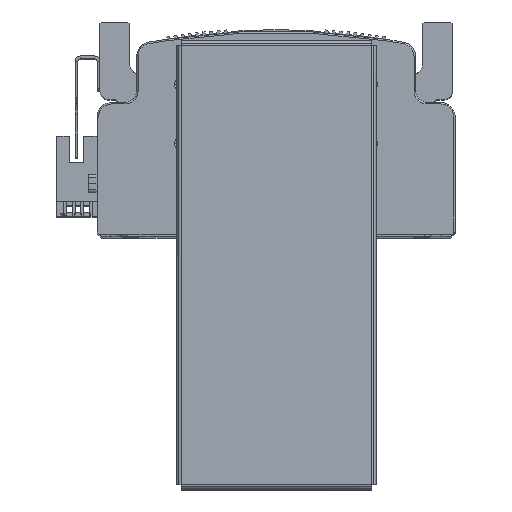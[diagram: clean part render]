
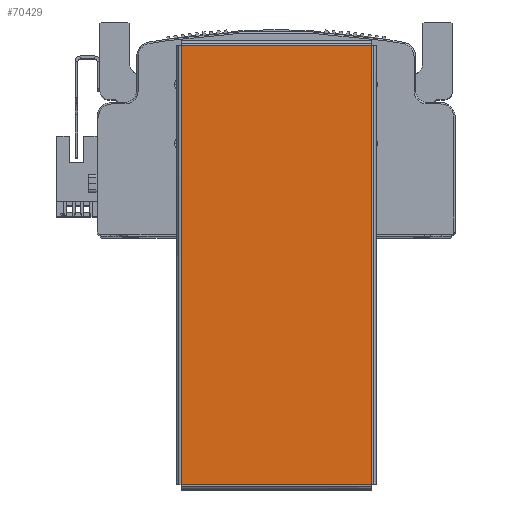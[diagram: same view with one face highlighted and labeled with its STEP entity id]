
A CAD part, top view. The second image highlights one B-rep face of the part: STEP entity #70429.
In plain terms, the highlighted planar face has unit normal (0, 0, 1) as drawn and (0, 0, -1) by its records, which use the part's own axes.
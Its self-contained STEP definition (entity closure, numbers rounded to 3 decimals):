
#12750 = DIRECTION ( 'NONE',  ( 0., -1., 0. ) ) ;
#12752 = CARTESIAN_POINT ( 'NONE',  ( 74.793, -32.363, -1. ) ) ;
#12783 = CARTESIAN_POINT ( 'NONE',  ( -74.763, -32.393, -1. ) ) ;
#12787 = CARTESIAN_POINT ( 'NONE',  ( 74.763, 32.393, -1. ) ) ;
#12838 = DIRECTION ( 'NONE',  ( 0., 1., 0. ) ) ;
#12852 = DIRECTION ( 'NONE',  ( -1., 0., 0. ) ) ;
#12967 = CARTESIAN_POINT ( 'NONE',  ( -74.793, 32.363, -1. ) ) ;
#13022 = DIRECTION ( 'NONE',  ( 1., 0., 0. ) ) ;
#17783 = ORIENTED_EDGE ( 'NONE', *, *, #22077, .T. ) ;
#17787 = ORIENTED_EDGE ( 'NONE', *, *, #22083, .T. ) ;
#17807 = ORIENTED_EDGE ( 'NONE', *, *, #22092, .T. ) ;
#17859 = ORIENTED_EDGE ( 'NONE', *, *, #22078, .T. ) ;
#22077 = EDGE_CURVE ( 'NONE', #51795, #51815, #39004, .T. ) ;
#22078 = EDGE_CURVE ( 'NONE', #51815, #53009, #39028, .T. ) ;
#22083 = EDGE_CURVE ( 'NONE', #53009, #53015, #39011, .T. ) ;
#22092 = EDGE_CURVE ( 'NONE', #53015, #51795, #39014, .T. ) ;
#39004 = LINE ( 'NONE', #12787, #39048 ) ;
#39011 = LINE ( 'NONE', #12783, #39026 ) ;
#39014 = LINE ( 'NONE', #12967, #39015 ) ;
#39015 = VECTOR ( 'NONE', #13022, 1000. ) ;
#39026 = VECTOR ( 'NONE', #12838, 1000. ) ;
#39028 = LINE ( 'NONE', #12752, #39038 ) ;
#39038 = VECTOR ( 'NONE', #12852, 1000. ) ;
#39048 = VECTOR ( 'NONE', #12750, 1000. ) ;
#43667 = CARTESIAN_POINT ( 'NONE',  ( 74.763, -32.363, -1. ) ) ;
#43699 = CARTESIAN_POINT ( 'NONE',  ( 74.763, 32.363, -1. ) ) ;
#43807 = CARTESIAN_POINT ( 'NONE',  ( -74.763, -32.363, -1. ) ) ;
#43813 = CARTESIAN_POINT ( 'NONE',  ( -74.763, 32.363, -1. ) ) ;
#45118 = FACE_OUTER_BOUND ( 'NONE', #56392, .T. ) ;
#51795 = VERTEX_POINT ( 'NONE', #43699 ) ;
#51815 = VERTEX_POINT ( 'NONE', #43667 ) ;
#53009 = VERTEX_POINT ( 'NONE', #43807 ) ;
#53015 = VERTEX_POINT ( 'NONE', #43813 ) ;
#56392 = EDGE_LOOP ( 'NONE', ( #17783, #17859, #17787, #17807 ) ) ;
#62891 = AXIS2_PLACEMENT_3D ( 'NONE', #64664, #64656, #64635 ) ;
#64617 = PLANE ( 'NONE',  #62891 ) ;
#64635 = DIRECTION ( 'NONE',  ( 1., 0., 0. ) ) ;
#64656 = DIRECTION ( 'NONE',  ( 0., 0., 1. ) ) ;
#64664 = CARTESIAN_POINT ( 'NONE',  ( 0., 0., -1. ) ) ;
#70429 = ADVANCED_FACE ( 'NONE', ( #45118 ), #64617, .F. ) ;
